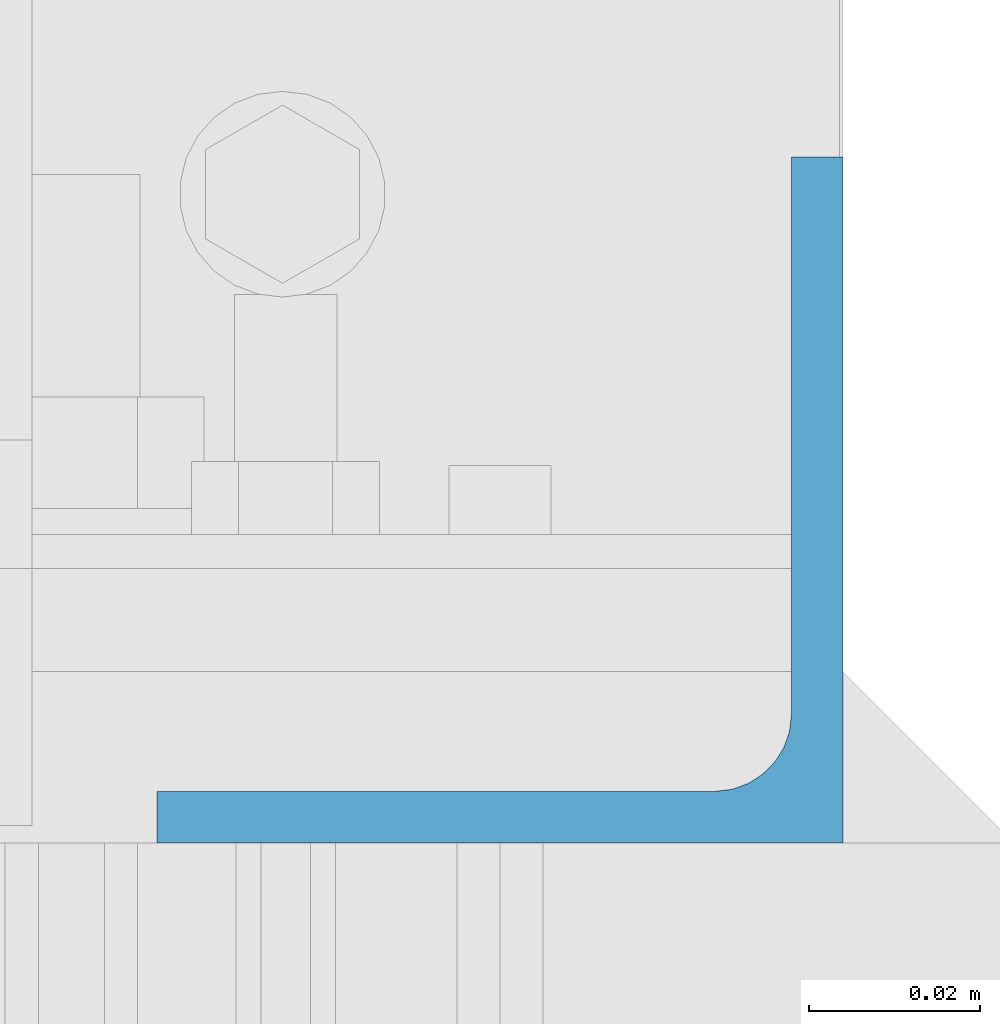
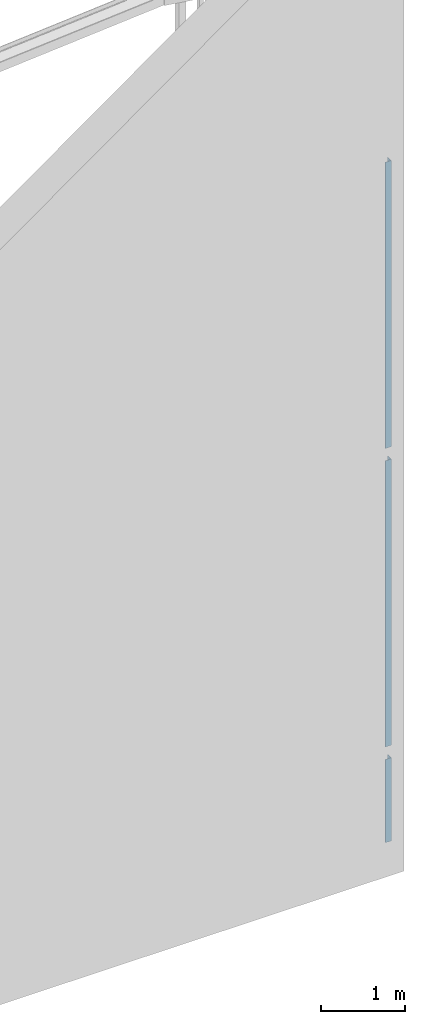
# One storey, part 38 of 271: 3 beams, 3 elements without a shape of their own.
"""IFC2X3 building model written with IfcOpenShell, lengths in millimetres."""

from ifc_helpers import new_model, si_unit, frame, origin_with_axes, origin_2d_with_axis, place, context, subcontext, project, spatial, l_section, extrude, material, type_object, element, aggregate, save


model = new_model("IFC2X3")

# Units and contexts
model_context = context("Model", 3, precision=1e-05, world=origin_with_axes())
body_context = subcontext(model_context, "Body", "Model", "MODEL_VIEW")
ifc_project = project(units=[si_unit("LENGTHUNIT", "METRE", prefix="MILLI"), si_unit("AREAUNIT", "SQUARE_METRE"), si_unit("VOLUMEUNIT", "CUBIC_METRE"), si_unit("MASSUNIT", "GRAM", prefix="KILO"), si_unit("TIMEUNIT", "SECOND"), si_unit("PLANEANGLEUNIT", "RADIAN"), si_unit("SOLIDANGLEUNIT", "STERADIAN"), si_unit("THERMODYNAMICTEMPERATUREUNIT", "DEGREE_CELSIUS"), si_unit("LUMINOUSINTENSITYUNIT", "LUMEN")], contexts=[model_context])

# Site, building, storey
site_placement = place(None, origin_with_axes())
site = spatial("IfcSite", under=ifc_project, at=site_placement, Name="Undefined", CompositionType="ELEMENT")
building_placement = place(site_placement, origin_with_axes())
building = spatial("IfcBuilding", under=site, at=building_placement, Name="Undefined", CompositionType="ELEMENT")
storey_placement = place(building_placement, origin_with_axes())
storey = spatial("IfcBuildingStorey", under=building, at=storey_placement, Name="Undefined", CompositionType="ELEMENT", Elevation=0.0)

# Assembly, beam
assembly_1_placement = place(storey_placement, origin_with_axes())
assembly_1 = element("IfcElementAssembly", 1, at=assembly_1_placement, inside=storey, AssemblyPlace="NOTDEFINED", PredefinedType="RIGID_FRAME")
ifc_material = material(Name="STEEL/S355JR")
beam_type = type_object("IfcBeamType", Name="L80*80*6", PredefinedType="NOTDEFINED")
beam_1_placement = place(assembly_1_placement, frame((12668.3756870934, 39.3249842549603, 69.3499999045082), z_axis=(0.0, 1.0, 0.0), x_axis=(0.0, 0.0, 1.0)))
beam_1 = element("IfcBeam", 2, at=beam_1_placement, type_object=beam_type, material=ifc_material, Name="KĄTOWNIK", ObjectType="L80*80*6", context=body_context, shape_type="SweptSolid", body=[
    extrude(l_section(Depth=80.0, Width=80.0, Thickness=6.0, FilletRadius=9.0, at=origin_2d_with_axis()), frame((1205.0, 0.0, 0.0), z_axis=(-1.0, 0.0, 1.38777878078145e-17), x_axis=(0.0, -1.0, 0.0)), (0.0, 0.0, 1.0), 1205.0),
])
aggregate(assembly_1, [beam_1])

assembly_2_placement = place(storey_placement, origin_with_axes())
assembly_2 = element("IfcElementAssembly", 3, at=assembly_2_placement, inside=storey, AssemblyPlace="NOTDEFINED", PredefinedType="RIGID_FRAME")
beam_2_placement = place(assembly_2_placement, frame((12668.3756870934, 39.3249842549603, 1454.34999990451), z_axis=(0.0, 1.0, 0.0), x_axis=(0.0, 0.0, 1.0)))
beam_2 = element("IfcBeam", 4, at=beam_2_placement, type_object=beam_type, material=ifc_material, Name="KĄTOWNIK", ObjectType="L80*80*6", context=body_context, shape_type="SweptSolid", body=[
    extrude(l_section(Depth=80.0, Width=80.0, Thickness=6.0, FilletRadius=9.0, at=origin_2d_with_axis()), frame((4140.0, 0.0, 0.0), z_axis=(-1.0, 0.0, 1.38777878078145e-17), x_axis=(0.0, -1.0, 0.0)), (0.0, 0.0, 1.0), 4140.0),
])
aggregate(assembly_2, [beam_2])

assembly_3_placement = place(storey_placement, origin_with_axes())
assembly_3 = element("IfcElementAssembly", 5, at=assembly_3_placement, inside=storey, AssemblyPlace="NOTDEFINED", PredefinedType="RIGID_FRAME")
beam_3_placement = place(assembly_3_placement, frame((12668.3756870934, 39.3249842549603, 5774.34999990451), z_axis=(0.0, 1.0, 0.0), x_axis=(0.0, 0.0, 1.0)))
beam_3 = element("IfcBeam", 6, at=beam_3_placement, type_object=beam_type, material=ifc_material, Name="KĄTOWNIK", ObjectType="L80*80*6", context=body_context, shape_type="SweptSolid", body=[
    extrude(l_section(Depth=80.0, Width=80.0, Thickness=6.0, FilletRadius=9.0, at=origin_2d_with_axis()), frame((4140.0, 0.0, 0.0), z_axis=(-1.0, 0.0, 1.38777878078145e-17), x_axis=(0.0, -1.0, 0.0)), (0.0, 0.0, 1.0), 4140.0),
])
aggregate(assembly_3, [beam_3])

save(model, "model.ifc")
